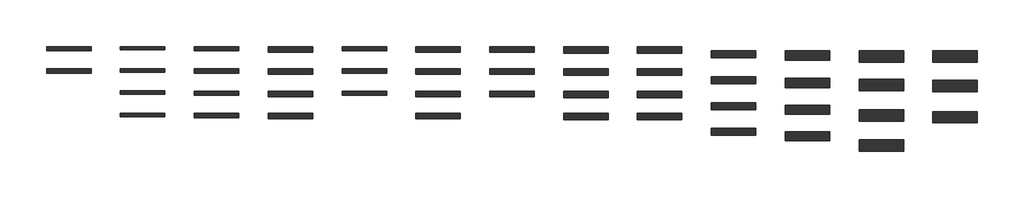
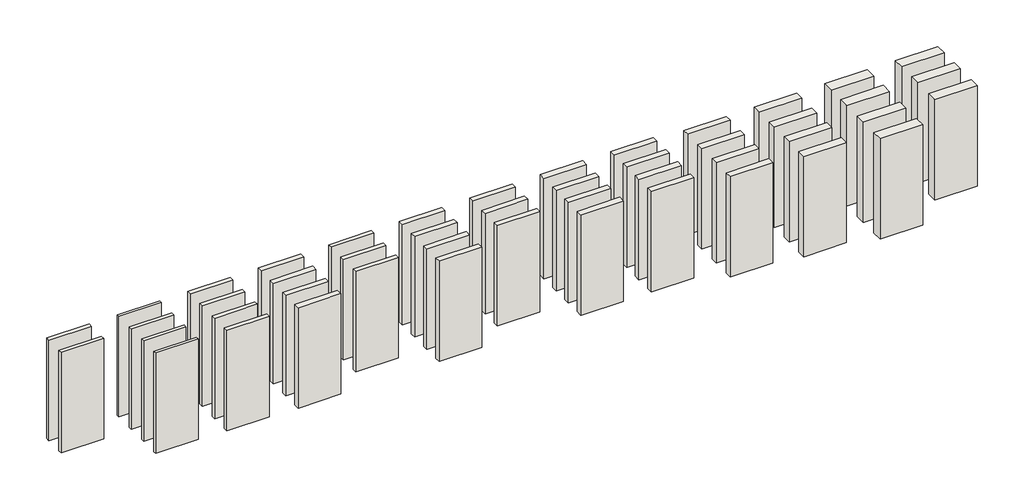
# One storey: 47 walls.
"""IFC4 building model written with IfcOpenShell, lengths in millimetres."""

from ifc_helpers import new_model, si_unit, frame, origin, place, context, project, spatial, polyline, outline, extrude, element, save

model = new_model("IFC4")

# Units and contexts
model_context = context("Model", 3, world=origin())
ifc_project = project(units=[si_unit("LENGTHUNIT", "METRE", prefix="MILLI")], contexts=[model_context])

# Site, building, storey
site = spatial("IfcSite", under=ifc_project)
building = spatial("IfcBuilding", under=site)
storey = spatial("IfcBuildingStorey", under=building, Name="2_Starpsienas", Elevation=4000.0)

# Walls
placement = place(None, origin())
element("IfcWall", 1, ObjectType="RIGIPS - 3.35.02 - EI 60, REI 60 - 4000 (1)", at=placement, inside=storey, context=model_context, shape_type="SweptSolid", body=[
    extrude(outline(polyline([(-14580.5465426, 3143.5126776), (-15580.5465426, 3143.5126776), (-15580.5465426, 3238.5126776), (-14580.5465426, 3238.5126776), (-14580.5465426, 3143.5126776)])), frame((0.0, 0.0, 4000.0), z_axis=(0.0, 0.0, 1.0), x_axis=(1.0, 0.0, 0.0)), (0.0, 0.0, 1.0), 2500.0),
])
element("IfcWall", 2, ObjectType="RIGIPS - 3.35.02 - EI 60, REI 60 - 4000 (2)", at=placement, inside=storey, context=model_context, shape_type="SweptSolid", body=[
    extrude(outline(polyline([(-14580.5465426, 2643.5126776), (-15580.5465426, 2643.5126776), (-15580.5465426, 2738.5126776), (-14580.5465426, 2738.5126776), (-14580.5465426, 2643.5126776)])), frame((0.0, 0.0, 4000.0), z_axis=(0.0, 0.0, 1.0), x_axis=(1.0, 0.0, 0.0)), (0.0, 0.0, 1.0), 2500.0),
])
element("IfcWall", 3, ObjectType="RIGIPS - 3.40.01 - EI 15, REI 15 - 3250 - 44dB", at=placement, inside=storey, context=model_context, shape_type="SweptSolid", body=[
    extrude(outline(polyline([(-12920.5465426, 3163.5126776), (-13920.5465426, 3163.5126776), (-13920.5465426, 3238.5126776), (-12920.5465426, 3238.5126776), (-12920.5465426, 3163.5126776)])), frame((0.0, 0.0, 4000.0), z_axis=(0.0, 0.0, 1.0), x_axis=(1.0, 0.0, 0.0)), (0.0, 0.0, 1.0), 2500.0),
])
element("IfcWall", 4, ObjectType="RIGIPS - 3.40.01 - EI 30, REI 30 - 3250 - 44dB", at=placement, inside=storey, context=model_context, shape_type="SweptSolid", body=[
    extrude(outline(polyline([(-12920.5465426, 2663.5126776), (-13920.5465426, 2663.5126776), (-13920.5465426, 2738.5126776), (-12920.5465426, 2738.5126776), (-12920.5465426, 2663.5126776)])), frame((0.0, 0.0, 4000.0), z_axis=(0.0, 0.0, 1.0), x_axis=(1.0, 0.0, 0.0)), (0.0, 0.0, 1.0), 2500.0),
])
element("IfcWall", 5, ObjectType="RIGIPS - 3.40.01 - EI 60, REI 60 - 3250 - 42dB", at=placement, inside=storey, context=model_context, shape_type="SweptSolid", body=[
    extrude(outline(polyline([(-12920.5465426, 2161.0126776), (-13920.5465426, 2161.0126776), (-13920.5465426, 2241.0126776), (-12920.5465426, 2241.0126776), (-12920.5465426, 2161.0126776)])), frame((0.0, 0.0, 4000.0), z_axis=(0.0, 0.0, 1.0), x_axis=(1.0, 0.0, 0.0)), (0.0, 0.0, 1.0), 2500.0),
])
element("IfcWall", 6, ObjectType="RIGIPS - 3.40.01 - EI 60, REI 60 - 3250 - 44dB", at=placement, inside=storey, context=model_context, shape_type="SweptSolid", body=[
    extrude(outline(polyline([(-12920.5465426, 1663.5126776), (-13920.5465426, 1663.5126776), (-13920.5465426, 1738.5126776), (-12920.5465426, 1738.5126776), (-12920.5465426, 1663.5126776)])), frame((0.0, 0.0, 4000.0), z_axis=(0.0, 0.0, 1.0), x_axis=(1.0, 0.0, 0.0)), (0.0, 0.0, 1.0), 2500.0),
])
element("IfcWall", 7, ObjectType="RIGIPS - 3.40.02 - EI 15, REI 15 - 4500 - 48dB", at=placement, inside=storey, context=model_context, shape_type="SweptSolid", body=[
    extrude(outline(polyline([(-11260.5465426, 3138.5126776), (-12260.5465426, 3138.5126776), (-12260.5465426, 3238.5126776), (-11260.5465426, 3238.5126776), (-11260.5465426, 3138.5126776)])), frame((0.0, 0.0, 4000.0), z_axis=(0.0, 0.0, 1.0), x_axis=(1.0, 0.0, 0.0)), (0.0, 0.0, 1.0), 2500.0),
])
element("IfcWall", 8, ObjectType="RIGIPS - 3.40.02 - EI 30, REI 30 - 4500 - 48dB", at=placement, inside=storey, context=model_context, shape_type="SweptSolid", body=[
    extrude(outline(polyline([(-11260.5465426, 2638.5126776), (-12260.5465426, 2638.5126776), (-12260.5465426, 2738.5126776), (-11260.5465426, 2738.5126776), (-11260.5465426, 2638.5126776)])), frame((0.0, 0.0, 4000.0), z_axis=(0.0, 0.0, 1.0), x_axis=(1.0, 0.0, 0.0)), (0.0, 0.0, 1.0), 2500.0),
])
element("IfcWall", 9, ObjectType="RIGIPS - 3.40.02 - EI 60, REI 60 - 4500 - 46dB", at=placement, inside=storey, context=model_context, shape_type="SweptSolid", body=[
    extrude(outline(polyline([(-11260.5465426, 2138.5126776), (-12260.5465426, 2138.5126776), (-12260.5465426, 2238.5126776), (-11260.5465426, 2238.5126776), (-11260.5465426, 2138.5126776)])), frame((0.0, 0.0, 4000.0), z_axis=(0.0, 0.0, 1.0), x_axis=(1.0, 0.0, 0.0)), (0.0, 0.0, 1.0), 2500.0),
])
element("IfcWall", 10, ObjectType="RIGIPS - 3.40.02 - EI 60, REI 60 - 4500 - 47dB", at=placement, inside=storey, context=model_context, shape_type="SweptSolid", body=[
    extrude(outline(polyline([(-11260.5465426, 1636.0126776), (-12260.5465426, 1636.0126776), (-12260.5465426, 1741.0126776), (-11260.5465426, 1741.0126776), (-11260.5465426, 1636.0126776)])), frame((0.0, 0.0, 4000.0), z_axis=(0.0, 0.0, 1.0), x_axis=(1.0, 0.0, 0.0)), (0.0, 0.0, 1.0), 2500.0),
])
element("IfcWall", 11, ObjectType="RIGIPS - 3.40.03 - EI 15, REI 15 - 5000 - 51dB", at=placement, inside=storey, context=model_context, shape_type="SweptSolid", body=[
    extrude(outline(polyline([(-9600.5465426, 3113.5126776), (-10600.5465426, 3113.5126776), (-10600.5465426, 3238.5126776), (-9600.5465426, 3238.5126776), (-9600.5465426, 3113.5126776)])), frame((0.0, 0.0, 4000.0), z_axis=(0.0, 0.0, 1.0), x_axis=(1.0, 0.0, 0.0)), (0.0, 0.0, 1.0), 2500.0),
])
element("IfcWall", 12, ObjectType="RIGIPS - 3.40.03 - EI 30, REI 30 - 5000 - 51dB", at=placement, inside=storey, context=model_context, shape_type="SweptSolid", body=[
    extrude(outline(polyline([(-9600.5465426, 2613.5126776), (-10600.5465426, 2613.5126776), (-10600.5465426, 2738.5126776), (-9600.5465426, 2738.5126776), (-9600.5465426, 2613.5126776)])), frame((0.0, 0.0, 4000.0), z_axis=(0.0, 0.0, 1.0), x_axis=(1.0, 0.0, 0.0)), (0.0, 0.0, 1.0), 2500.0),
])
element("IfcWall", 13, ObjectType="RIGIPS - 3.40.03 - EI 60, REI 60 - 5000 - 46dB", at=placement, inside=storey, context=model_context, shape_type="SweptSolid", body=[
    extrude(outline(polyline([(-9600.5465426, 2113.5126776), (-10600.5465426, 2113.5126776), (-10600.5465426, 2238.5126776), (-9600.5465426, 2238.5126776), (-9600.5465426, 2113.5126776)])), frame((0.0, 0.0, 4000.0), z_axis=(0.0, 0.0, 1.0), x_axis=(1.0, 0.0, 0.0)), (0.0, 0.0, 1.0), 2500.0),
])
element("IfcWall", 14, ObjectType="RIGIPS - 3.40.03 - EI 60, REI 60 - 5000 - 47dB", at=placement, inside=storey, context=model_context, shape_type="SweptSolid", body=[
    extrude(outline(polyline([(-9600.5465426, 1611.0126776), (-10600.5465426, 1611.0126776), (-10600.5465426, 1741.0126776), (-9600.5465426, 1741.0126776), (-9600.5465426, 1611.0126776)])), frame((0.0, 0.0, 4000.0), z_axis=(0.0, 0.0, 1.0), x_axis=(1.0, 0.0, 0.0)), (0.0, 0.0, 1.0), 2500.0),
])
element("IfcWall", 15, ObjectType="RIGIPS - 3.40.04 - EI 120, REI 120 - 4500 - 55dB", at=placement, inside=storey, context=model_context, shape_type="SweptSolid", body=[
    extrude(outline(polyline([(-7940.5465426, 3138.5126776), (-8940.5465426, 3138.5126776), (-8940.5465426, 3238.5126776), (-7940.5465426, 3238.5126776), (-7940.5465426, 3138.5126776)])), frame((0.0, 0.0, 4000.0), z_axis=(0.0, 0.0, 1.0), x_axis=(1.0, 0.0, 0.0)), (0.0, 0.0, 1.0), 2500.0),
])
element("IfcWall", 16, ObjectType="RIGIPS - 3.40.04 - EI 30, REI 30 - 4500 - 55dB", at=placement, inside=storey, context=model_context, shape_type="SweptSolid", body=[
    extrude(outline(polyline([(-7940.5465426, 2638.5126776), (-8940.5465426, 2638.5126776), (-8940.5465426, 2738.5126776), (-7940.5465426, 2738.5126776), (-7940.5465426, 2638.5126776)])), frame((0.0, 0.0, 4000.0), z_axis=(0.0, 0.0, 1.0), x_axis=(1.0, 0.0, 0.0)), (0.0, 0.0, 1.0), 2500.0),
])
element("IfcWall", 17, ObjectType="RIGIPS - 3.40.04 - EI 60, REI 60 - 4500 - 55dB", at=placement, inside=storey, context=model_context, shape_type="SweptSolid", body=[
    extrude(outline(polyline([(-7940.5465426, 2138.5126776), (-8940.5465426, 2138.5126776), (-8940.5465426, 2238.5126776), (-7940.5465426, 2238.5126776), (-7940.5465426, 2138.5126776)])), frame((0.0, 0.0, 4000.0), z_axis=(0.0, 0.0, 1.0), x_axis=(1.0, 0.0, 0.0)), (0.0, 0.0, 1.0), 2500.0),
])
element("IfcWall", 18, ObjectType="RIGIPS - 3.40.05 - EI 120, REI 120 - 5500 - 58dB", at=placement, inside=storey, context=model_context, shape_type="SweptSolid", body=[
    extrude(outline(polyline([(-6280.5465426, 3113.5126776), (-7280.5465426, 3113.5126776), (-7280.5465426, 3238.5126776), (-6280.5465426, 3238.5126776), (-6280.5465426, 3113.5126776)])), frame((0.0, 0.0, 4000.0), z_axis=(0.0, 0.0, 1.0), x_axis=(1.0, 0.0, 0.0)), (0.0, 0.0, 1.0), 2500.0),
])
element("IfcWall", 19, ObjectType="RIGIPS - 3.40.05 - EI 30, REI 30 - 5500 - 58dB", at=placement, inside=storey, context=model_context, shape_type="SweptSolid", body=[
    extrude(outline(polyline([(-6280.5465426, 2613.5126776), (-7280.5465426, 2613.5126776), (-7280.5465426, 2738.5126776), (-6280.5465426, 2738.5126776), (-6280.5465426, 2613.5126776)])), frame((0.0, 0.0, 4000.0), z_axis=(0.0, 0.0, 1.0), x_axis=(1.0, 0.0, 0.0)), (0.0, 0.0, 1.0), 2500.0),
])
element("IfcWall", 20, ObjectType="RIGIPS - 3.40.05 - EI 60, REI 60 - 5500 - 58dB", at=placement, inside=storey, context=model_context, shape_type="SweptSolid", body=[
    extrude(outline(polyline([(-6280.5465426, 2113.5126776), (-7280.5465426, 2113.5126776), (-7280.5465426, 2238.5126776), (-6280.5465426, 2238.5126776), (-6280.5465426, 2113.5126776)])), frame((0.0, 0.0, 4000.0), z_axis=(0.0, 0.0, 1.0), x_axis=(1.0, 0.0, 0.0)), (0.0, 0.0, 1.0), 2500.0),
])
element("IfcWall", 21, ObjectType="RIGIPS - 3.40.05 - EI 90, REI 90 - 5500 - 58dB", at=placement, inside=storey, context=model_context, shape_type="SweptSolid", body=[
    extrude(outline(polyline([(-6280.5465426, 1613.5126776), (-7280.5465426, 1613.5126776), (-7280.5465426, 1738.5126776), (-6280.5465426, 1738.5126776), (-6280.5465426, 1613.5126776)])), frame((0.0, 0.0, 4000.0), z_axis=(0.0, 0.0, 1.0), x_axis=(1.0, 0.0, 0.0)), (0.0, 0.0, 1.0), 2500.0),
])
element("IfcWall", 22, ObjectType="RIGIPS - 3.40.05 AKU - EI 120, REI 120 - 5500 - 61dB", at=placement, inside=storey, context=model_context, shape_type="SweptSolid", body=[
    extrude(outline(polyline([(-4620.5465426, 3113.5126776), (-5620.5465426, 3113.5126776), (-5620.5465426, 3238.5126776), (-4620.5465426, 3238.5126776), (-4620.5465426, 3113.5126776)])), frame((0.0, 0.0, 4000.0), z_axis=(0.0, 0.0, 1.0), x_axis=(1.0, 0.0, 0.0)), (0.0, 0.0, 1.0), 2500.0),
])
element("IfcWall", 23, ObjectType="RIGIPS - 3.40.05 AKU - EI 30, REI 30 - 5500 - 61dB", at=placement, inside=storey, context=model_context, shape_type="SweptSolid", body=[
    extrude(outline(polyline([(-4620.5465426, 2613.5126776), (-5620.5465426, 2613.5126776), (-5620.5465426, 2738.5126776), (-4620.5465426, 2738.5126776), (-4620.5465426, 2613.5126776)])), frame((0.0, 0.0, 4000.0), z_axis=(0.0, 0.0, 1.0), x_axis=(1.0, 0.0, 0.0)), (0.0, 0.0, 1.0), 2500.0),
])
element("IfcWall", 24, ObjectType="RIGIPS - 3.40.05 AKU - EI 90, REI 90 - 5500 - 61dB", at=placement, inside=storey, context=model_context, shape_type="SweptSolid", body=[
    extrude(outline(polyline([(-4620.5465426, 2113.5126776), (-5620.5465426, 2113.5126776), (-5620.5465426, 2238.5126776), (-4620.5465426, 2238.5126776), (-4620.5465426, 2113.5126776)])), frame((0.0, 0.0, 4000.0), z_axis=(0.0, 0.0, 1.0), x_axis=(1.0, 0.0, 0.0)), (0.0, 0.0, 1.0), 2500.0),
])
element("IfcWall", 25, ObjectType="RIGIPS - 3.40.06 - EI 120, REI 120 - 6500 - 57dB", at=placement, inside=storey, context=model_context, shape_type="SweptSolid", body=[
    extrude(outline(polyline([(-2960.5465426, 3088.5126776), (-3960.5465426, 3088.5126776), (-3960.5465426, 3238.5126776), (-2960.5465426, 3238.5126776), (-2960.5465426, 3088.5126776)])), frame((0.0, 0.0, 4000.0), z_axis=(0.0, 0.0, 1.0), x_axis=(1.0, 0.0, 0.0)), (0.0, 0.0, 1.0), 2500.0),
])
element("IfcWall", 26, ObjectType="RIGIPS - 3.40.06 - EI 30, REI 30 - 6500 - 57dB", at=placement, inside=storey, context=model_context, shape_type="SweptSolid", body=[
    extrude(outline(polyline([(-2960.5465426, 2588.5126776), (-3960.5465426, 2588.5126776), (-3960.5465426, 2738.5126776), (-2960.5465426, 2738.5126776), (-2960.5465426, 2588.5126776)])), frame((0.0, 0.0, 4000.0), z_axis=(0.0, 0.0, 1.0), x_axis=(1.0, 0.0, 0.0)), (0.0, 0.0, 1.0), 2500.0),
])
element("IfcWall", 27, ObjectType="RIGIPS - 3.40.06 - EI 60, REI 60 - 6500 - 57dB", at=placement, inside=storey, context=model_context, shape_type="SweptSolid", body=[
    extrude(outline(polyline([(-2960.5465426, 2088.5126776), (-3960.5465426, 2088.5126776), (-3960.5465426, 2238.5126776), (-2960.5465426, 2238.5126776), (-2960.5465426, 2088.5126776)])), frame((0.0, 0.0, 4000.0), z_axis=(0.0, 0.0, 1.0), x_axis=(1.0, 0.0, 0.0)), (0.0, 0.0, 1.0), 2500.0),
])
element("IfcWall", 28, ObjectType="RIGIPS - 3.40.06 - EI 90, REI 90 - 6500 - 54dB", at=placement, inside=storey, context=model_context, shape_type="SweptSolid", body=[
    extrude(outline(polyline([(-2960.5465426, 1588.5126776), (-3960.5465426, 1588.5126776), (-3960.5465426, 1738.5126776), (-2960.5465426, 1738.5126776), (-2960.5465426, 1588.5126776)])), frame((0.0, 0.0, 4000.0), z_axis=(0.0, 0.0, 1.0), x_axis=(1.0, 0.0, 0.0)), (0.0, 0.0, 1.0), 2500.0),
])
element("IfcWall", 29, ObjectType="RIGIPS - 3.40.06 AKU - EI 120, REI 120 - 6500 - 64dB", at=placement, inside=storey, context=model_context, shape_type="SweptSolid", body=[
    extrude(outline(polyline([(-1300.5465426, 3088.5126776), (-2300.5465426, 3088.5126776), (-2300.5465426, 3238.5126776), (-1300.5465426, 3238.5126776), (-1300.5465426, 3088.5126776)])), frame((0.0, 0.0, 4000.0), z_axis=(0.0, 0.0, 1.0), x_axis=(1.0, 0.0, 0.0)), (0.0, 0.0, 1.0), 2500.0),
])
element("IfcWall", 30, ObjectType="RIGIPS - 3.40.06 AKU - EI 30, REI 30 - 6500 - 64dB", at=placement, inside=storey, context=model_context, shape_type="SweptSolid", body=[
    extrude(outline(polyline([(-1300.5465426, 2588.5126776), (-2300.5465426, 2588.5126776), (-2300.5465426, 2738.5126776), (-1300.5465426, 2738.5126776), (-1300.5465426, 2588.5126776)])), frame((0.0, 0.0, 4000.0), z_axis=(0.0, 0.0, 1.0), x_axis=(1.0, 0.0, 0.0)), (0.0, 0.0, 1.0), 2500.0),
])
element("IfcWall", 31, ObjectType="RIGIPS - 3.40.06 AKU - EI 60, REI 60 - 6500 - 64dB", at=placement, inside=storey, context=model_context, shape_type="SweptSolid", body=[
    extrude(outline(polyline([(-1300.5465426, 2088.5126776), (-2300.5465426, 2088.5126776), (-2300.5465426, 2238.5126776), (-1300.5465426, 2238.5126776), (-1300.5465426, 2088.5126776)])), frame((0.0, 0.0, 4000.0), z_axis=(0.0, 0.0, 1.0), x_axis=(1.0, 0.0, 0.0)), (0.0, 0.0, 1.0), 2500.0),
])
element("IfcWall", 32, ObjectType="RIGIPS - 3.40.06 AKU - EI 90, REI 90 - 6500 - 64dB", at=placement, inside=storey, context=model_context, shape_type="SweptSolid", body=[
    extrude(outline(polyline([(-1300.5465426, 1588.5126776), (-2300.5465426, 1588.5126776), (-2300.5465426, 1738.5126776), (-1300.5465426, 1738.5126776), (-1300.5465426, 1588.5126776)])), frame((0.0, 0.0, 4000.0), z_axis=(0.0, 0.0, 1.0), x_axis=(1.0, 0.0, 0.0)), (0.0, 0.0, 1.0), 2500.0),
])
element("IfcWall", 33, ObjectType="RIGIPS - 3.41.01 - EI 120, REI 120 - 4500 - 63dB", at=placement, inside=storey, context=model_context, shape_type="SweptSolid", body=[
    extrude(outline(polyline([(359.4534574, 2983.5126776), (-640.5465426, 2983.5126776), (-640.5465426, 3138.5126776), (359.4534574, 3138.5126776), (359.4534574, 2983.5126776)])), frame((0.0, 0.0, 4000.0), z_axis=(0.0, 0.0, 1.0), x_axis=(1.0, 0.0, 0.0)), (0.0, 0.0, 1.0), 2500.0),
])
element("IfcWall", 34, ObjectType="RIGIPS - 3.41.01 - EI 30, REI 30 - 4500 - 63dB", at=placement, inside=storey, context=model_context, shape_type="SweptSolid", body=[
    extrude(outline(polyline([(359.4534574, 2403.5126776), (-640.5465426, 2403.5126776), (-640.5465426, 2558.5126776), (359.4534574, 2558.5126776), (359.4534574, 2403.5126776)])), frame((0.0, 0.0, 4000.0), z_axis=(0.0, 0.0, 1.0), x_axis=(1.0, 0.0, 0.0)), (0.0, 0.0, 1.0), 2500.0),
])
element("IfcWall", 35, ObjectType="RIGIPS - 3.41.01 - EI 60, REI 60 - 4500 - 63dB", at=placement, inside=storey, context=model_context, shape_type="SweptSolid", body=[
    extrude(outline(polyline([(359.4534574, 1823.5126776), (-640.5465426, 1823.5126776), (-640.5465426, 1978.5126776), (359.4534574, 1978.5126776), (359.4534574, 1823.5126776)])), frame((0.0, 0.0, 4000.0), z_axis=(0.0, 0.0, 1.0), x_axis=(1.0, 0.0, 0.0)), (0.0, 0.0, 1.0), 2500.0),
])
element("IfcWall", 36, ObjectType="RIGIPS - 3.41.01 - EI 90, REI 90 - 4500 - 57dB", at=placement, inside=storey, context=model_context, shape_type="SweptSolid", body=[
    extrude(outline(polyline([(359.4534574, 1246.0126776), (-640.5465426, 1246.0126776), (-640.5465426, 1401.0126776), (359.4534574, 1401.0126776), (359.4534574, 1246.0126776)])), frame((0.0, 0.0, 4000.0), z_axis=(0.0, 0.0, 1.0), x_axis=(1.0, 0.0, 0.0)), (0.0, 0.0, 1.0), 2500.0),
])
element("IfcWall", 37, ObjectType="RIGIPS - 3.41.02 - EI 120, REI 120 - 6000 - 64dB", at=placement, inside=storey, context=model_context, shape_type="SweptSolid", body=[
    extrude(outline(polyline([(2019.4534574, 2933.5126776), (1019.4534574, 2933.5126776), (1019.4534574, 3138.5126776), (2019.4534574, 3138.5126776), (2019.4534574, 2933.5126776)])), frame((0.0, 0.0, 4000.0), z_axis=(0.0, 0.0, 1.0), x_axis=(1.0, 0.0, 0.0)), (0.0, 0.0, 1.0), 2500.0),
])
element("IfcWall", 38, ObjectType="RIGIPS - 3.41.02 - EI 30, REI 30 - 6000 - 64dB", at=placement, inside=storey, context=model_context, shape_type="SweptSolid", body=[
    extrude(outline(polyline([(2019.4534574, 2317.0151361), (1019.4534574, 2317.0151361), (1019.4534574, 2522.0151361), (2019.4534574, 2522.0151361), (2019.4534574, 2317.0151361)])), frame((0.0, 0.0, 4000.0), z_axis=(0.0, 0.0, 1.0), x_axis=(1.0, 0.0, 0.0)), (0.0, 0.0, 1.0), 2500.0),
])
element("IfcWall", 39, ObjectType="RIGIPS - 3.41.02 - EI 60, REI 60 - 6000 - 64dB", at=placement, inside=storey, context=model_context, shape_type="SweptSolid", body=[
    extrude(outline(polyline([(2019.4534574, 1717.0151361), (1019.4534574, 1717.0151361), (1019.4534574, 1922.0151361), (2019.4534574, 1922.0151361), (2019.4534574, 1717.0151361)])), frame((0.0, 0.0, 4000.0), z_axis=(0.0, 0.0, 1.0), x_axis=(1.0, 0.0, 0.0)), (0.0, 0.0, 1.0), 2500.0),
])
element("IfcWall", 40, ObjectType="RIGIPS - 3.41.02 - EI 90, REI 90 - 6000 - 63dB", at=placement, inside=storey, context=model_context, shape_type="SweptSolid", body=[
    extrude(outline(polyline([(2019.4534574, 1117.0151361), (1019.4534574, 1117.0151361), (1019.4534574, 1322.0151361), (2019.4534574, 1322.0151361), (2019.4534574, 1117.0151361)])), frame((0.0, 0.0, 4000.0), z_axis=(0.0, 0.0, 1.0), x_axis=(1.0, 0.0, 0.0)), (0.0, 0.0, 1.0), 2500.0),
])
element("IfcWall", 41, ObjectType="RIGIPS - 3.41.03 - EI 120, REI 120 - 6500 - 65dB", at=placement, inside=storey, context=model_context, shape_type="SweptSolid", body=[
    extrude(outline(polyline([(3679.4534574, 2883.5126776), (2679.4534574, 2883.5126776), (2679.4534574, 3138.5126776), (3679.4534574, 3138.5126776), (3679.4534574, 2883.5126776)])), frame((0.0, 0.0, 4000.0), z_axis=(0.0, 0.0, 1.0), x_axis=(1.0, 0.0, 0.0)), (0.0, 0.0, 1.0), 2500.0),
])
element("IfcWall", 42, ObjectType="RIGIPS - 3.41.03 - EI 30, REI 30 - 6500 - 65dB", at=placement, inside=storey, context=model_context, shape_type="SweptSolid", body=[
    extrude(outline(polyline([(3679.4534574, 2243.5126776), (2679.4534574, 2243.5126776), (2679.4534574, 2498.5126776), (3679.4534574, 2498.5126776), (3679.4534574, 2243.5126776)])), frame((0.0, 0.0, 4000.0), z_axis=(0.0, 0.0, 1.0), x_axis=(1.0, 0.0, 0.0)), (0.0, 0.0, 1.0), 2500.0),
])
element("IfcWall", 43, ObjectType="RIGIPS - 3.41.03 - EI 60, REI 60 - 6500 - 65dB", at=placement, inside=storey, context=model_context, shape_type="SweptSolid", body=[
    extrude(outline(polyline([(3679.4534574, 1563.5126776), (2679.4534574, 1563.5126776), (2679.4534574, 1818.5126776), (3679.4534574, 1818.5126776), (3679.4534574, 1563.5126776)])), frame((0.0, 0.0, 4000.0), z_axis=(0.0, 0.0, 1.0), x_axis=(1.0, 0.0, 0.0)), (0.0, 0.0, 1.0), 2500.0),
])
element("IfcWall", 44, ObjectType="RIGIPS - 3.41.03 - EI 90, REI 90 - 6500 - 64dB", at=placement, inside=storey, context=model_context, shape_type="SweptSolid", body=[
    extrude(outline(polyline([(3679.4534574, 883.5126776), (2679.4534574, 883.5126776), (2679.4534574, 1138.5126776), (3679.4534574, 1138.5126776), (3679.4534574, 883.5126776)])), frame((0.0, 0.0, 4000.0), z_axis=(0.0, 0.0, 1.0), x_axis=(1.0, 0.0, 0.0)), (0.0, 0.0, 1.0), 2500.0),
])
element("IfcWall", 45, ObjectType="RIGIPS - 3.41.053 AKU - EI 120, REI 120 - 6500 - 75dB", at=placement, inside=storey, context=model_context, shape_type="SweptSolid", body=[
    extrude(outline(polyline([(5339.4534574, 2883.5126776), (4339.4534574, 2883.5126776), (4339.4534574, 3138.5126776), (5339.4534574, 3138.5126776), (5339.4534574, 2883.5126776)])), frame((0.0, 0.0, 4000.0), z_axis=(0.0, 0.0, 1.0), x_axis=(1.0, 0.0, 0.0)), (0.0, 0.0, 1.0), 2500.0),
])
element("IfcWall", 46, ObjectType="RIGIPS - 3.41.053 AKU - EI 30, REI 30 - 6500 - 75dB", at=placement, inside=storey, context=model_context, shape_type="SweptSolid", body=[
    extrude(outline(polyline([(5339.4534574, 2223.5126776), (4339.4534574, 2223.5126776), (4339.4534574, 2478.5126776), (5339.4534574, 2478.5126776), (5339.4534574, 2223.5126776)])), frame((0.0, 0.0, 4000.0), z_axis=(0.0, 0.0, 1.0), x_axis=(1.0, 0.0, 0.0)), (0.0, 0.0, 1.0), 2500.0),
])
element("IfcWall", 47, ObjectType="RIGIPS - 3.41.053 AKU - EI 60, REI 60 - 6500 - 75dB", at=placement, inside=storey, context=model_context, shape_type="SweptSolid", body=[
    extrude(outline(polyline([(5339.4534574, 1523.5126776), (4339.4534574, 1523.5126776), (4339.4534574, 1778.5126776), (5339.4534574, 1778.5126776), (5339.4534574, 1523.5126776)])), frame((0.0, 0.0, 4000.0), z_axis=(0.0, 0.0, 1.0), x_axis=(1.0, 0.0, 0.0)), (0.0, 0.0, 1.0), 2500.0),
])

save(model, "model.ifc")
